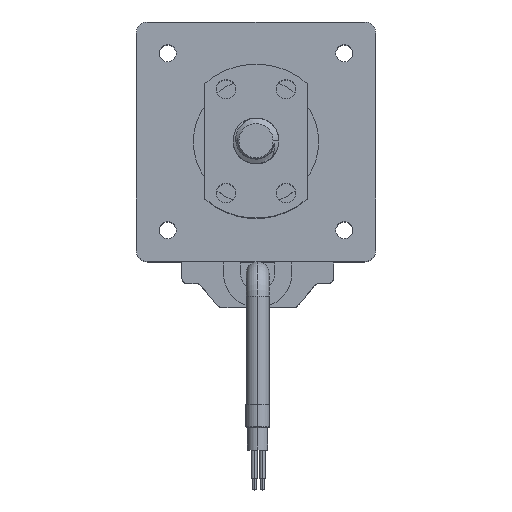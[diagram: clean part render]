
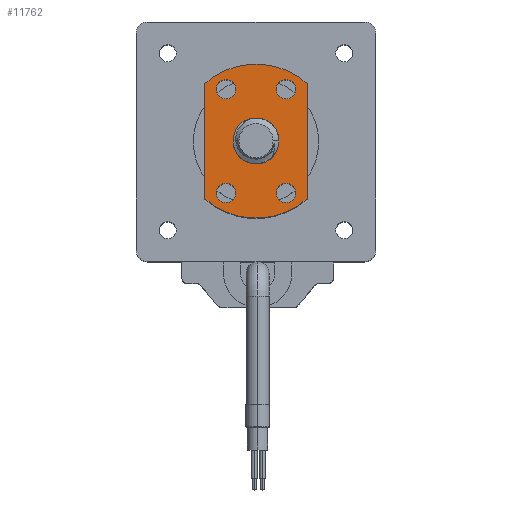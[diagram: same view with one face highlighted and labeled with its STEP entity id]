
A CAD part, top view. The second image highlights one B-rep face of the part: STEP entity #11762.
In plain terms, the highlighted planar face has unit normal (0, 0, 1).
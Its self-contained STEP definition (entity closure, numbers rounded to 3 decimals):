
#399 = ORIENTED_EDGE ( 'NONE', *, *, #31397, .T. ) ;
#768 = LINE ( 'NONE', #15490, #6994 ) ;
#1107 = FACE_BOUND ( 'NONE', #14224, .T. ) ;
#1215 = CARTESIAN_POINT ( 'NONE',  ( 3.55, -9.093, 118.6 ) ) ;
#1407 = CARTESIAN_POINT ( 'NONE',  ( -6.95, -9.093, 118.6 ) ) ;
#1530 = DIRECTION ( 'NONE',  ( 1., 0., 0. ) ) ;
#1740 = DIRECTION ( 'NONE',  ( 1., 0., 0. ) ) ;
#2432 = CARTESIAN_POINT ( 'NONE',  ( -9., 10.062, 118.6 ) ) ;
#2563 = CIRCLE ( 'NONE', #19077, 1.7 ) ;
#2605 = CARTESIAN_POINT ( 'NONE',  ( 3., 0., 118.6 ) ) ;
#2712 = AXIS2_PLACEMENT_3D ( 'NONE', #10888, #6024, #20768 ) ;
#2733 = CIRCLE ( 'NONE', #2712, 1.7 ) ;
#3119 = CIRCLE ( 'NONE', #7780, 1.7 ) ;
#3517 = DIRECTION ( 'NONE',  ( 0., 0., -1. ) ) ;
#3838 = FACE_BOUND ( 'NONE', #22972, .T. ) ;
#4140 = CIRCLE ( 'NONE', #29483, 1.7 ) ;
#4670 = CIRCLE ( 'NONE', #20196, 3. ) ;
#5197 = EDGE_LOOP ( 'NONE', ( #24783, #16998, #29507, #10578 ) ) ;
#5677 = EDGE_CURVE ( 'NONE', #19452, #20735, #10260, .T. ) ;
#5690 = DIRECTION ( 'NONE',  ( 0., 0., -1. ) ) ;
#5776 = ORIENTED_EDGE ( 'NONE', *, *, #21015, .T. ) ;
#5782 = CARTESIAN_POINT ( 'NONE',  ( 0., 0., 118.6 ) ) ;
#6007 = CARTESIAN_POINT ( 'NONE',  ( 0., 0., 118.6 ) ) ;
#6024 = DIRECTION ( 'NONE',  ( 0., 0., -1. ) ) ;
#6414 = CARTESIAN_POINT ( 'NONE',  ( 0., 0., 118.6 ) ) ;
#6994 = VECTOR ( 'NONE', #25203, 1000. ) ;
#7317 = VERTEX_POINT ( 'NONE', #19412 ) ;
#7780 = AXIS2_PLACEMENT_3D ( 'NONE', #10684, #8875, #20562 ) ;
#7829 = DIRECTION ( 'NONE',  ( 1., 0., 0. ) ) ;
#7951 = DIRECTION ( 'NONE',  ( -1., 0., 0. ) ) ;
#8392 = EDGE_CURVE ( 'NONE', #11754, #17874, #2733, .T. ) ;
#8434 = CARTESIAN_POINT ( 'NONE',  ( 9., -10.062, 118.6 ) ) ;
#8436 = DIRECTION ( 'NONE',  ( 1., 0., 0. ) ) ;
#8678 = FACE_BOUND ( 'NONE', #9321, .T. ) ;
#8875 = DIRECTION ( 'NONE',  ( 0., 0., -1. ) ) ;
#9192 = ORIENTED_EDGE ( 'NONE', *, *, #21270, .T. ) ;
#9269 = VERTEX_POINT ( 'NONE', #1215 ) ;
#9293 = AXIS2_PLACEMENT_3D ( 'NONE', #16636, #22139, #26512 ) ;
#9321 = EDGE_LOOP ( 'NONE', ( #5776, #9192 ) ) ;
#9420 = EDGE_CURVE ( 'NONE', #20066, #19452, #768, .T. ) ;
#9491 = CIRCLE ( 'NONE', #22960, 13.5 ) ;
#9719 = CIRCLE ( 'NONE', #23182, 1.7 ) ;
#9762 = CARTESIAN_POINT ( 'NONE',  ( 5.25, -9.093, 118.6 ) ) ;
#9875 = ORIENTED_EDGE ( 'NONE', *, *, #11944, .T. ) ;
#10017 = AXIS2_PLACEMENT_3D ( 'NONE', #15693, #25566, #1740 ) ;
#10044 = AXIS2_PLACEMENT_3D ( 'NONE', #9762, #12681, #7829 ) ;
#10260 = CIRCLE ( 'NONE', #18530, 13.5 ) ;
#10578 = ORIENTED_EDGE ( 'NONE', *, *, #9420, .F. ) ;
#10684 = CARTESIAN_POINT ( 'NONE',  ( 5.25, 9.093, 118.6 ) ) ;
#10799 = DIRECTION ( 'NONE',  ( 1., 0., 0. ) ) ;
#10810 = FACE_BOUND ( 'NONE', #19380, .T. ) ;
#10888 = CARTESIAN_POINT ( 'NONE',  ( -5.25, -9.093, 118.6 ) ) ;
#11275 = CARTESIAN_POINT ( 'NONE',  ( 0., 0., 118.6 ) ) ;
#11450 = VERTEX_POINT ( 'NONE', #24867 ) ;
#11754 = VERTEX_POINT ( 'NONE', #1407 ) ;
#11762 = ADVANCED_FACE ( 'NONE', ( #1107, #26013, #3838, #20994, #10810, #8678 ), #28605, .F. ) ;
#11944 = EDGE_CURVE ( 'NONE', #27961, #11450, #4670, .T. ) ;
#12681 = DIRECTION ( 'NONE',  ( 0., 0., -1. ) ) ;
#12960 = CIRCLE ( 'NONE', #9293, 1.7 ) ;
#13064 = ORIENTED_EDGE ( 'NONE', *, *, #15552, .T. ) ;
#13573 = ORIENTED_EDGE ( 'NONE', *, *, #21674, .T. ) ;
#13806 = CARTESIAN_POINT ( 'NONE',  ( 6.95, 9.093, 118.6 ) ) ;
#14224 = EDGE_LOOP ( 'NONE', ( #9875, #14984 ) ) ;
#14479 = VECTOR ( 'NONE', #27973, 1000. ) ;
#14984 = ORIENTED_EDGE ( 'NONE', *, *, #22109, .T. ) ;
#15446 = EDGE_CURVE ( 'NONE', #20744, #20066, #9491, .T. ) ;
#15490 = CARTESIAN_POINT ( 'NONE',  ( 9., -10.062, 118.6 ) ) ;
#15552 = EDGE_CURVE ( 'NONE', #28789, #9269, #17788, .T. ) ;
#15667 = LINE ( 'NONE', #18416, #14479 ) ;
#15693 = CARTESIAN_POINT ( 'NONE',  ( 5.25, -9.093, 118.6 ) ) ;
#16279 = CARTESIAN_POINT ( 'NONE',  ( 9., 10.062, 118.6 ) ) ;
#16636 = CARTESIAN_POINT ( 'NONE',  ( -5.25, 9.093, 118.6 ) ) ;
#16998 = ORIENTED_EDGE ( 'NONE', *, *, #22138, .F. ) ;
#17489 = CARTESIAN_POINT ( 'NONE',  ( 5.25, 9.093, 118.6 ) ) ;
#17788 = CIRCLE ( 'NONE', #10044, 1.7 ) ;
#17874 = VERTEX_POINT ( 'NONE', #30427 ) ;
#17981 = EDGE_CURVE ( 'NONE', #9269, #28789, #19294, .T. ) ;
#18102 = DIRECTION ( 'NONE',  ( 1., 0., 0. ) ) ;
#18416 = CARTESIAN_POINT ( 'NONE',  ( -9., -10.062, 118.6 ) ) ;
#18530 = AXIS2_PLACEMENT_3D ( 'NONE', #6007, #5690, #8436 ) ;
#18948 = CARTESIAN_POINT ( 'NONE',  ( -9., -10.062, 118.6 ) ) ;
#19077 = AXIS2_PLACEMENT_3D ( 'NONE', #23100, #3517, #10799 ) ;
#19294 = CIRCLE ( 'NONE', #10017, 1.7 ) ;
#19380 = EDGE_LOOP ( 'NONE', ( #28197, #13573 ) ) ;
#19412 = CARTESIAN_POINT ( 'NONE',  ( -6.95, 9.093, 118.6 ) ) ;
#19452 = VERTEX_POINT ( 'NONE', #8434 ) ;
#19754 = DIRECTION ( 'NONE',  ( 0., 0., -1. ) ) ;
#20066 = VERTEX_POINT ( 'NONE', #16279 ) ;
#20196 = AXIS2_PLACEMENT_3D ( 'NONE', #6414, #26168, #18102 ) ;
#20526 = DIRECTION ( 'NONE',  ( 0., 0., -1. ) ) ;
#20562 = DIRECTION ( 'NONE',  ( -1., 0., 0. ) ) ;
#20735 = VERTEX_POINT ( 'NONE', #18948 ) ;
#20744 = VERTEX_POINT ( 'NONE', #2432 ) ;
#20768 = DIRECTION ( 'NONE',  ( 1., 0., 0. ) ) ;
#20963 = ORIENTED_EDGE ( 'NONE', *, *, #8392, .T. ) ;
#20994 = FACE_BOUND ( 'NONE', #27739, .T. ) ;
#21015 = EDGE_CURVE ( 'NONE', #29335, #30680, #4140, .T. ) ;
#21146 = DIRECTION ( 'NONE',  ( 1., 0., 0. ) ) ;
#21192 = AXIS2_PLACEMENT_3D ( 'NONE', #5782, #20526, #21146 ) ;
#21270 = EDGE_CURVE ( 'NONE', #30680, #29335, #3119, .T. ) ;
#21674 = EDGE_CURVE ( 'NONE', #22611, #7317, #12960, .T. ) ;
#22109 = EDGE_CURVE ( 'NONE', #11450, #27961, #28463, .T. ) ;
#22138 = EDGE_CURVE ( 'NONE', #20735, #20744, #15667, .T. ) ;
#22139 = DIRECTION ( 'NONE',  ( 0., 0., -1. ) ) ;
#22611 = VERTEX_POINT ( 'NONE', #29524 ) ;
#22960 = AXIS2_PLACEMENT_3D ( 'NONE', #23703, #31299, #1530 ) ;
#22972 = EDGE_LOOP ( 'NONE', ( #20963, #399 ) ) ;
#23100 = CARTESIAN_POINT ( 'NONE',  ( -5.25, -9.093, 118.6 ) ) ;
#23182 = AXIS2_PLACEMENT_3D ( 'NONE', #24787, #30132, #7951 ) ;
#23703 = CARTESIAN_POINT ( 'NONE',  ( 0., 0., 118.6 ) ) ;
#24311 = AXIS2_PLACEMENT_3D ( 'NONE', #11275, #30406, #27978 ) ;
#24783 = ORIENTED_EDGE ( 'NONE', *, *, #15446, .F. ) ;
#24787 = CARTESIAN_POINT ( 'NONE',  ( -5.25, 9.093, 118.6 ) ) ;
#24867 = CARTESIAN_POINT ( 'NONE',  ( -3., 0., 118.6 ) ) ;
#25203 = DIRECTION ( 'NONE',  ( 0., -1., 0. ) ) ;
#25566 = DIRECTION ( 'NONE',  ( 0., 0., -1. ) ) ;
#26013 = FACE_OUTER_BOUND ( 'NONE', #5197, .T. ) ;
#26168 = DIRECTION ( 'NONE',  ( 0., 0., -1. ) ) ;
#26512 = DIRECTION ( 'NONE',  ( -1., 0., 0. ) ) ;
#27626 = CARTESIAN_POINT ( 'NONE',  ( 3.55, 9.093, 118.6 ) ) ;
#27739 = EDGE_LOOP ( 'NONE', ( #29738, #13064 ) ) ;
#27961 = VERTEX_POINT ( 'NONE', #2605 ) ;
#27973 = DIRECTION ( 'NONE',  ( 0., 1., 0. ) ) ;
#27978 = DIRECTION ( 'NONE',  ( 1., 0., 0. ) ) ;
#28197 = ORIENTED_EDGE ( 'NONE', *, *, #28213, .T. ) ;
#28213 = EDGE_CURVE ( 'NONE', #7317, #22611, #9719, .T. ) ;
#28463 = CIRCLE ( 'NONE', #21192, 3. ) ;
#28605 = PLANE ( 'NONE',  #24311 ) ;
#28789 = VERTEX_POINT ( 'NONE', #28809 ) ;
#28809 = CARTESIAN_POINT ( 'NONE',  ( 6.95, -9.093, 118.6 ) ) ;
#29335 = VERTEX_POINT ( 'NONE', #27626 ) ;
#29483 = AXIS2_PLACEMENT_3D ( 'NONE', #17489, #19754, #30117 ) ;
#29507 = ORIENTED_EDGE ( 'NONE', *, *, #5677, .F. ) ;
#29524 = CARTESIAN_POINT ( 'NONE',  ( -3.55, 9.093, 118.6 ) ) ;
#29738 = ORIENTED_EDGE ( 'NONE', *, *, #17981, .T. ) ;
#30117 = DIRECTION ( 'NONE',  ( -1., 0., 0. ) ) ;
#30132 = DIRECTION ( 'NONE',  ( 0., 0., -1. ) ) ;
#30406 = DIRECTION ( 'NONE',  ( 0., 0., -1. ) ) ;
#30427 = CARTESIAN_POINT ( 'NONE',  ( -3.55, -9.093, 118.6 ) ) ;
#30680 = VERTEX_POINT ( 'NONE', #13806 ) ;
#31299 = DIRECTION ( 'NONE',  ( 0., 0., -1. ) ) ;
#31397 = EDGE_CURVE ( 'NONE', #17874, #11754, #2563, .T. ) ;
